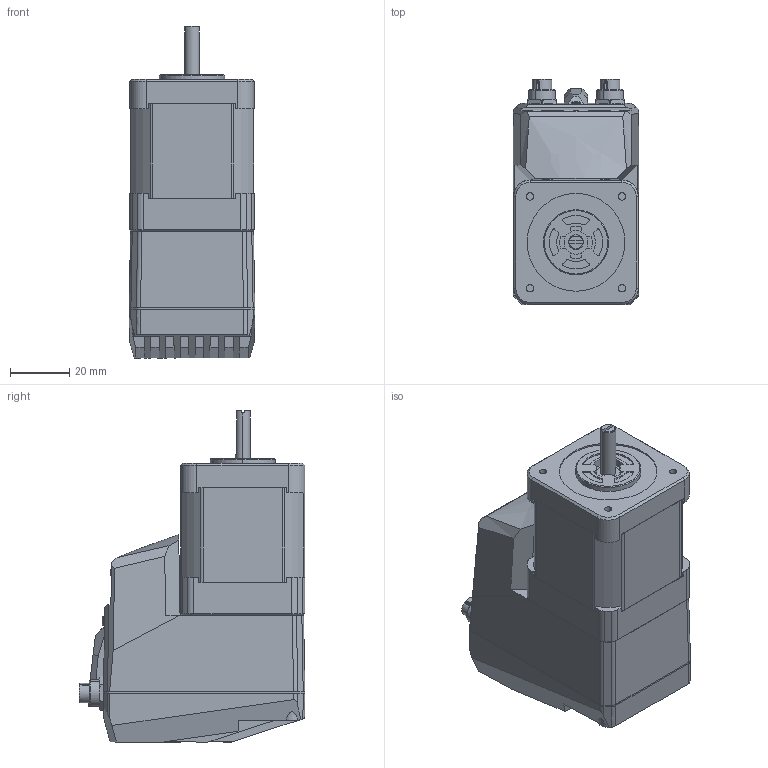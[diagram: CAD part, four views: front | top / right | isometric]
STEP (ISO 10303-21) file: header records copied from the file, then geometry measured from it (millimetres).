
FILE_DESCRIPTION (( 'STEP AP214' ), '1' );
FILE_NAME ('CM1-E-17L30.STEP', '2018-05-16T18:58:08', ( '' ), ( '' ), 'SwSTEP 2.0', 'SolidWorks 2018', '' );
FILE_SCHEMA (( 'AUTOMOTIVE_DESIGN' ));
Length unit declared in the file: millimetre
Products named in the file (4): 92010A018_M3 x 8 METRIC 18-8 SS FLAT HEAD PHIL MACHINE SCREW; CM1-E-17L30; 9.2dankCM1-X-17L30C13.0.0.1_17L back part; CM1-E-NEMA17
Assembly tree (6 placements, depth 2):
  CM1-E-17L30
    CM1-E-NEMA17
    9.2dankCM1-X-17L30C13.0.0.1_17L back part
    92010A018_M3 x 8 METRIC 18-8 SS FLAT HEAD PHIL MACHINE SCREW  x4
Bounding box: 42.42 x 76.22 x 112.02 mm (x, y, z)
Volume: 86467.5 mm3; surface area: 54921 mm2
Topology: 6 solids, 24 shells, 2523 faces, 8099 edges, 5480 vertices
Faces by surface type: plane 1346, cylinder 699, bspline 289, cone 179, torus 6, sphere 4
Entity records: 120689 total; most frequent: CARTESIAN_POINT 57298, ORIENTED_EDGE 13156, DIRECTION 10857, EDGE_CURVE 7501, VERTEX_POINT 5102, LINE 4833, VECTOR 4833, AXIS2_PLACEMENT_3D 3012
